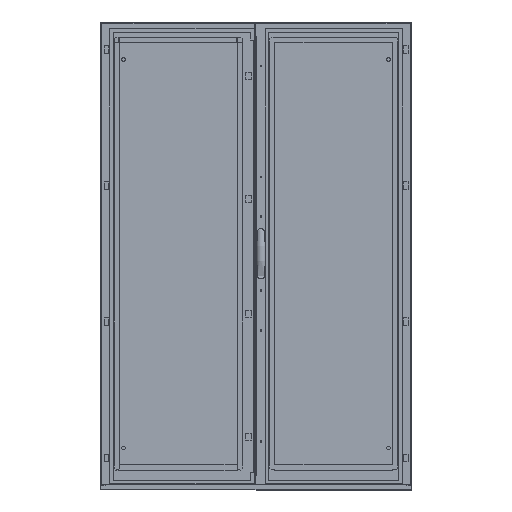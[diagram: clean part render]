
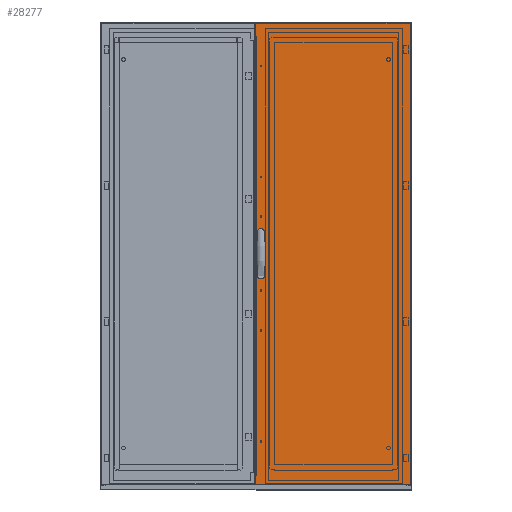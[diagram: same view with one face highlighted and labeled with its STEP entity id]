
A CAD part, top view. The second image highlights one B-rep face of the part: STEP entity #28277.
In plain terms, the highlighted planar face has unit normal (0, 0, 1) as drawn and (0, 0, -1) by its records, which use the part's own axes.
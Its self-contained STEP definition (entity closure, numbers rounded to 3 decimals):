
#359=CIRCLE('',#31890,2.6);
#360=CIRCLE('',#31891,2.6);
#2610=ORIENTED_EDGE('',*,*,#9804,.T.);
#2611=ORIENTED_EDGE('',*,*,#9805,.T.);
#2612=ORIENTED_EDGE('',*,*,#9806,.T.);
#2613=ORIENTED_EDGE('',*,*,#9807,.T.);
#2614=ORIENTED_EDGE('',*,*,#9808,.T.);
#2615=ORIENTED_EDGE('',*,*,#9809,.T.);
#2616=ORIENTED_EDGE('',*,*,#9810,.T.);
#2617=ORIENTED_EDGE('',*,*,#9811,.T.);
#2618=ORIENTED_EDGE('',*,*,#9812,.T.);
#2619=ORIENTED_EDGE('',*,*,#9813,.T.);
#2620=ORIENTED_EDGE('',*,*,#9814,.T.);
#2621=ORIENTED_EDGE('',*,*,#9815,.T.);
#2622=ORIENTED_EDGE('',*,*,#9816,.T.);
#2623=ORIENTED_EDGE('',*,*,#9817,.T.);
#2624=ORIENTED_EDGE('',*,*,#9818,.T.);
#2625=ORIENTED_EDGE('',*,*,#9819,.T.);
#2626=ORIENTED_EDGE('',*,*,#9820,.T.);
#2627=ORIENTED_EDGE('',*,*,#9821,.F.);
#2628=ORIENTED_EDGE('',*,*,#9822,.F.);
#2629=ORIENTED_EDGE('',*,*,#9823,.T.);
#2630=ORIENTED_EDGE('',*,*,#9824,.T.);
#2631=ORIENTED_EDGE('',*,*,#9825,.T.);
#9804=EDGE_CURVE('',#13560,#13561,#16425,.T.);
#9805=EDGE_CURVE('',#13561,#13562,#16426,.T.);
#9806=EDGE_CURVE('',#13562,#13563,#16427,.T.);
#9807=EDGE_CURVE('',#13563,#13564,#16428,.T.);
#9808=EDGE_CURVE('',#13564,#13565,#16429,.T.);
#9809=EDGE_CURVE('',#13565,#13566,#16430,.T.);
#9810=EDGE_CURVE('',#13566,#13567,#16431,.T.);
#9811=EDGE_CURVE('',#13567,#13568,#16432,.T.);
#9812=EDGE_CURVE('',#13568,#13569,#16433,.T.);
#9813=EDGE_CURVE('',#13569,#13570,#16434,.T.);
#9814=EDGE_CURVE('',#13570,#13571,#16435,.T.);
#9815=EDGE_CURVE('',#13571,#13572,#16436,.T.);
#9816=EDGE_CURVE('',#13572,#13573,#16437,.T.);
#9817=EDGE_CURVE('',#13573,#13574,#16438,.T.);
#9818=EDGE_CURVE('',#13574,#13575,#16439,.T.);
#9819=EDGE_CURVE('',#13575,#13560,#16440,.T.);
#9820=EDGE_CURVE('',#13576,#13577,#16441,.T.);
#9821=EDGE_CURVE('',#13578,#13577,#16442,.T.);
#9822=EDGE_CURVE('',#13579,#13578,#16443,.T.);
#9823=EDGE_CURVE('',#13579,#13576,#16444,.T.);
#9824=EDGE_CURVE('',#13580,#13580,#359,.T.);
#9825=EDGE_CURVE('',#13581,#13581,#360,.T.);
#13560=VERTEX_POINT('',#42935);
#13561=VERTEX_POINT('',#42936);
#13562=VERTEX_POINT('',#42938);
#13563=VERTEX_POINT('',#42940);
#13564=VERTEX_POINT('',#42942);
#13565=VERTEX_POINT('',#42944);
#13566=VERTEX_POINT('',#42946);
#13567=VERTEX_POINT('',#42948);
#13568=VERTEX_POINT('',#42950);
#13569=VERTEX_POINT('',#42952);
#13570=VERTEX_POINT('',#42954);
#13571=VERTEX_POINT('',#42956);
#13572=VERTEX_POINT('',#42958);
#13573=VERTEX_POINT('',#42960);
#13574=VERTEX_POINT('',#42962);
#13575=VERTEX_POINT('',#42964);
#13576=VERTEX_POINT('',#42967);
#13577=VERTEX_POINT('',#42968);
#13578=VERTEX_POINT('',#42970);
#13579=VERTEX_POINT('',#42972);
#13580=VERTEX_POINT('',#42975);
#13581=VERTEX_POINT('',#42977);
#16425=LINE('',#42934,#20034);
#16426=LINE('',#42937,#20035);
#16427=LINE('',#42939,#20036);
#16428=LINE('',#42941,#20037);
#16429=LINE('',#42943,#20038);
#16430=LINE('',#42945,#20039);
#16431=LINE('',#42947,#20040);
#16432=LINE('',#42949,#20041);
#16433=LINE('',#42951,#20042);
#16434=LINE('',#42953,#20043);
#16435=LINE('',#42955,#20044);
#16436=LINE('',#42957,#20045);
#16437=LINE('',#42959,#20046);
#16438=LINE('',#42961,#20047);
#16439=LINE('',#42963,#20048);
#16440=LINE('',#42965,#20049);
#16441=LINE('',#42966,#20050);
#16442=LINE('',#42969,#20051);
#16443=LINE('',#42971,#20052);
#16444=LINE('',#42973,#20053);
#20034=VECTOR('',#35135,1000.);
#20035=VECTOR('',#35136,1000.);
#20036=VECTOR('',#35137,1000.);
#20037=VECTOR('',#35138,1000.);
#20038=VECTOR('',#35139,1000.);
#20039=VECTOR('',#35140,1000.);
#20040=VECTOR('',#35141,1000.);
#20041=VECTOR('',#35142,1000.);
#20042=VECTOR('',#35143,1000.);
#20043=VECTOR('',#35144,1000.);
#20044=VECTOR('',#35145,1000.);
#20045=VECTOR('',#35146,1000.);
#20046=VECTOR('',#35147,1000.);
#20047=VECTOR('',#35148,1000.);
#20048=VECTOR('',#35149,1000.);
#20049=VECTOR('',#35150,1000.);
#20050=VECTOR('',#35151,1000.);
#20051=VECTOR('',#35152,1000.);
#20052=VECTOR('',#35153,1000.);
#20053=VECTOR('',#35154,1000.);
#23375=EDGE_LOOP('',(#2610,#2611,#2612,#2613,#2614,#2615,#2616,#2617,#2618,
#2619,#2620,#2621,#2622,#2623,#2624,#2625));
#23376=EDGE_LOOP('',(#2626,#2627,#2628,#2629));
#23377=EDGE_LOOP('',(#2630));
#23378=EDGE_LOOP('',(#2631));
#25207=FACE_BOUND('',#23375,.T.);
#25208=FACE_BOUND('',#23376,.T.);
#25209=FACE_BOUND('',#23377,.T.);
#25210=FACE_BOUND('',#23378,.T.);
#26871=PLANE('',#31889);
#28277=ADVANCED_FACE('',(#25207,#25208,#25209,#25210),#26871,.F.);
#31889=AXIS2_PLACEMENT_3D('',#42933,#35133,#35134);
#31890=AXIS2_PLACEMENT_3D('',#42974,#35155,#35156);
#31891=AXIS2_PLACEMENT_3D('',#42976,#35157,#35158);
#35133=DIRECTION('',(0.,0.,1.));
#35134=DIRECTION('',(1.,0.,0.));
#35135=DIRECTION('',(0.,-1.,0.));
#35136=DIRECTION('',(0.342,-0.94,0.));
#35137=DIRECTION('',(1.,0.,0.));
#35138=DIRECTION('',(0.,1.,0.));
#35139=DIRECTION('',(1.,0.,0.));
#35140=DIRECTION('',(0.,-1.,0.));
#35141=DIRECTION('',(1.,0.,0.));
#35142=DIRECTION('',(0.342,0.94,0.));
#35143=DIRECTION('',(0.,1.,0.));
#35144=DIRECTION('',(-0.342,0.94,0.));
#35145=DIRECTION('',(-1.,0.,0.));
#35146=DIRECTION('',(0.,-1.,0.));
#35147=DIRECTION('',(-1.,0.,0.));
#35148=DIRECTION('',(0.,1.,0.));
#35149=DIRECTION('',(-1.,0.,0.));
#35150=DIRECTION('',(-0.342,-0.94,0.));
#35151=DIRECTION('',(-1.,0.,0.));
#35152=DIRECTION('',(0.,-1.,0.));
#35153=DIRECTION('',(-1.,0.,0.));
#35154=DIRECTION('',(0.,-1.,0.));
#35155=DIRECTION('',(0.,0.,1.));
#35156=DIRECTION('',(1.,0.,0.));
#35157=DIRECTION('',(0.,0.,1.));
#35158=DIRECTION('',(1.,0.,0.));
#42933=CARTESIAN_POINT('',(299.,1782.,-16.8));
#42934=CARTESIAN_POINT('',(265.45,956.256,-16.8));
#42935=CARTESIAN_POINT('',(265.45,956.256,-16.8));
#42936=CARTESIAN_POINT('',(265.45,825.744,-16.8));
#42937=CARTESIAN_POINT('',(265.45,825.744,-16.8));
#42938=CARTESIAN_POINT('',(267.45,820.25,-16.8));
#42939=CARTESIAN_POINT('',(267.45,820.25,-16.8));
#42940=CARTESIAN_POINT('',(272.7,820.25,-16.8));
#42941=CARTESIAN_POINT('',(272.7,820.25,-16.8));
#42942=CARTESIAN_POINT('',(272.7,828.,-16.8));
#42943=CARTESIAN_POINT('',(272.7,828.,-16.8));
#42944=CARTESIAN_POINT('',(283.7,828.,-16.8));
#42945=CARTESIAN_POINT('',(283.7,828.,-16.8));
#42946=CARTESIAN_POINT('',(283.7,820.25,-16.8));
#42947=CARTESIAN_POINT('',(283.7,820.25,-16.8));
#42948=CARTESIAN_POINT('',(288.95,820.25,-16.8));
#42949=CARTESIAN_POINT('',(288.95,820.25,-16.8));
#42950=CARTESIAN_POINT('',(290.95,825.744,-16.8));
#42951=CARTESIAN_POINT('',(290.95,825.744,-16.8));
#42952=CARTESIAN_POINT('',(290.95,956.256,-16.8));
#42953=CARTESIAN_POINT('',(290.95,956.256,-16.8));
#42954=CARTESIAN_POINT('',(288.95,961.75,-16.8));
#42955=CARTESIAN_POINT('',(288.95,961.75,-16.8));
#42956=CARTESIAN_POINT('',(283.7,961.75,-16.8));
#42957=CARTESIAN_POINT('',(283.7,961.75,-16.8));
#42958=CARTESIAN_POINT('',(283.7,954.,-16.8));
#42959=CARTESIAN_POINT('',(283.7,954.,-16.8));
#42960=CARTESIAN_POINT('',(272.7,954.,-16.8));
#42961=CARTESIAN_POINT('',(272.7,954.,-16.8));
#42962=CARTESIAN_POINT('',(272.7,961.75,-16.8));
#42963=CARTESIAN_POINT('',(272.7,961.75,-16.8));
#42964=CARTESIAN_POINT('',(267.45,961.75,-16.8));
#42965=CARTESIAN_POINT('',(267.45,961.75,-16.8));
#42966=CARTESIAN_POINT('',(299.,0.,-16.8));
#42967=CARTESIAN_POINT('',(299.,0.,-16.8));
#42968=CARTESIAN_POINT('',(-299.,0.,-16.8));
#42969=CARTESIAN_POINT('',(-299.,1782.,-16.8));
#42970=CARTESIAN_POINT('',(-299.,1782.,-16.8));
#42971=CARTESIAN_POINT('',(299.,1782.,-16.8));
#42972=CARTESIAN_POINT('',(299.,1782.,-16.8));
#42973=CARTESIAN_POINT('',(299.,1782.,-16.8));
#42974=CARTESIAN_POINT('',(278.2,961.,-16.8));
#42975=CARTESIAN_POINT('',(280.8,961.,-16.8));
#42976=CARTESIAN_POINT('',(278.2,821.,-16.8));
#42977=CARTESIAN_POINT('',(280.8,821.,-16.8));
